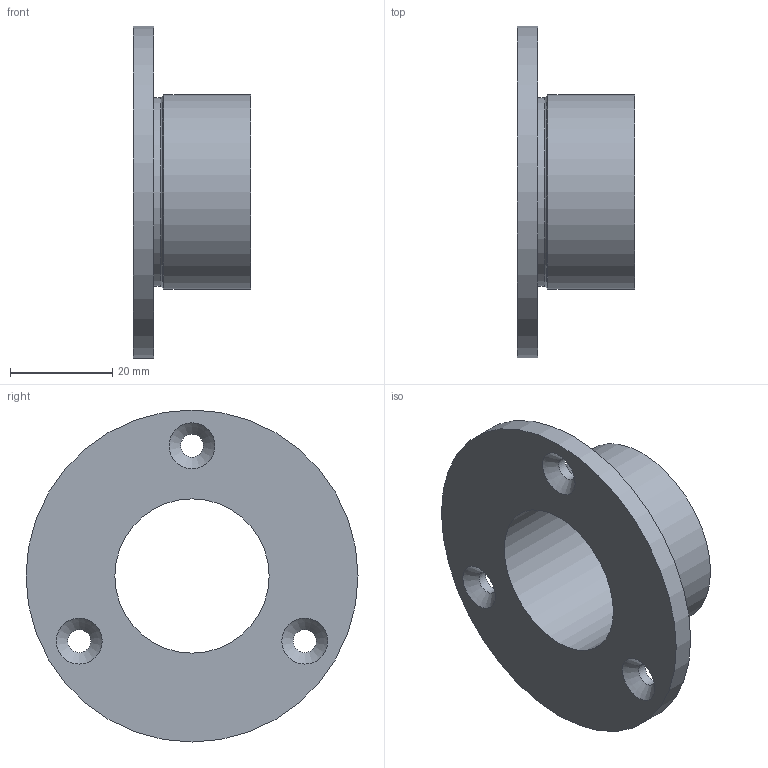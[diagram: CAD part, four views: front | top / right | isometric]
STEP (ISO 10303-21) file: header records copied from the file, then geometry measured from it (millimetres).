
FILE_DESCRIPTION(/* description */ (''),/* implementation_level */ '2;1');
FILE_NAME(/* name */ 'C:\Local Work Area\Progetti\AP\CALIBRI\04.20.stp',/* time_stamp */ '2015-05-14T09:15:47+02:00',/* author */ ('CAD5'),/* organization */ (''),/* preprocessor_version */ 'ST-DEVELOPER v15.2',/* originating_system */ 'Autodesk Inventor 2014',/* authorisation */ '0 mm^3');
FILE_SCHEMA (('AUTOMOTIVE_DESIGN { 1 0 10303 214 3 1 1 }'));
Length unit declared in the file: millimetre
Products named in the file (1): 04.20
Bounding box: 23 x 65 x 65 mm (x, y, z)
Volume: 17750.6 mm3; surface area: 10603.1 mm2
Topology: 1 solids, 1 shells, 20 faces, 39 edges, 23 vertices
Faces by surface type: cylinder 7, cone 6, plane 4, torus 3
Full cylindrical faces by diameter (mm): 4.5 x3, 30.2 x1, 37 x1, 38 x1, 65 x1
Entity records: 474 total; most frequent: DIRECTION 88, CARTESIAN_POINT 67, EDGE_LOOP 46, ORIENTED_EDGE 46, AXIS2_PLACEMENT_3D 44, FACE_BOUND 29, CIRCLE 23, VERTEX_POINT 23
